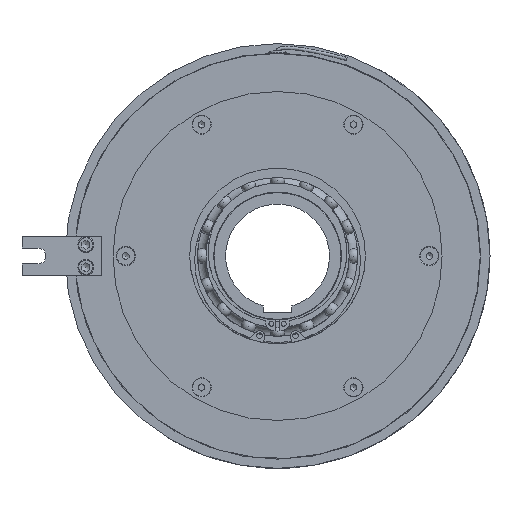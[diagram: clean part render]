
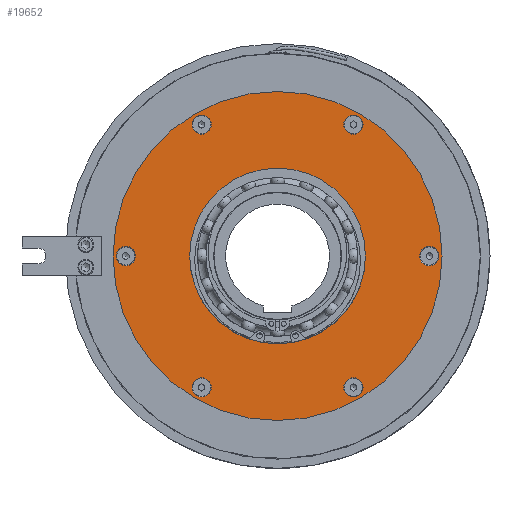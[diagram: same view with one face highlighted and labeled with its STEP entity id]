
A CAD part, left-side view. The second image highlights one B-rep face of the part: STEP entity #19652.
In plain terms, the highlighted planar face has unit normal (-1, 0, 0).
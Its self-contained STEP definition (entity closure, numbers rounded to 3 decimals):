
#541=FACE_BOUND('',#2397,.T.);
#542=FACE_BOUND('',#2398,.T.);
#543=FACE_BOUND('',#2399,.T.);
#544=FACE_BOUND('',#2400,.T.);
#545=FACE_BOUND('',#2401,.T.);
#546=FACE_BOUND('',#2402,.T.);
#547=FACE_BOUND('',#2403,.T.);
#869=PLANE('',#21043);
#1351=FACE_OUTER_BOUND('',#2396,.T.);
#2396=EDGE_LOOP('',(#13884,#13885));
#2397=EDGE_LOOP('',(#13886,#13887));
#2398=EDGE_LOOP('',(#13888,#13889));
#2399=EDGE_LOOP('',(#13890,#13891));
#2400=EDGE_LOOP('',(#13892,#13893));
#2401=EDGE_LOOP('',(#13894,#13895));
#2402=EDGE_LOOP('',(#13896,#13897));
#2403=EDGE_LOOP('',(#13898,#13899));
#4220=CIRCLE('',#21026,6.);
#4221=CIRCLE('',#21027,6.);
#4222=CIRCLE('',#21029,6.);
#4223=CIRCLE('',#21030,6.);
#4224=CIRCLE('',#21032,6.);
#4225=CIRCLE('',#21033,6.);
#4226=CIRCLE('',#21035,6.);
#4227=CIRCLE('',#21036,6.);
#4228=CIRCLE('',#21038,6.);
#4229=CIRCLE('',#21039,6.);
#4230=CIRCLE('',#21041,6.);
#4231=CIRCLE('',#21042,6.);
#4232=CIRCLE('',#21044,103.);
#4233=CIRCLE('',#21045,103.);
#4234=CIRCLE('',#21046,55.);
#4235=CIRCLE('',#21047,55.);
#7688=VERTEX_POINT('',#35452);
#7689=VERTEX_POINT('',#35453);
#7690=VERTEX_POINT('',#35458);
#7691=VERTEX_POINT('',#35459);
#7692=VERTEX_POINT('',#35464);
#7693=VERTEX_POINT('',#35465);
#7694=VERTEX_POINT('',#35470);
#7695=VERTEX_POINT('',#35471);
#7696=VERTEX_POINT('',#35476);
#7697=VERTEX_POINT('',#35477);
#7698=VERTEX_POINT('',#35482);
#7699=VERTEX_POINT('',#35483);
#7700=VERTEX_POINT('',#35488);
#7701=VERTEX_POINT('',#35489);
#7702=VERTEX_POINT('',#35492);
#7703=VERTEX_POINT('',#35493);
#10069=EDGE_CURVE('',#7688,#7689,#4220,.T.);
#10070=EDGE_CURVE('',#7689,#7688,#4221,.T.);
#10072=EDGE_CURVE('',#7690,#7691,#4222,.T.);
#10073=EDGE_CURVE('',#7691,#7690,#4223,.T.);
#10075=EDGE_CURVE('',#7692,#7693,#4224,.T.);
#10076=EDGE_CURVE('',#7693,#7692,#4225,.T.);
#10078=EDGE_CURVE('',#7694,#7695,#4226,.T.);
#10079=EDGE_CURVE('',#7695,#7694,#4227,.T.);
#10081=EDGE_CURVE('',#7696,#7697,#4228,.T.);
#10082=EDGE_CURVE('',#7697,#7696,#4229,.T.);
#10084=EDGE_CURVE('',#7698,#7699,#4230,.T.);
#10085=EDGE_CURVE('',#7699,#7698,#4231,.T.);
#10087=EDGE_CURVE('',#7700,#7701,#4232,.T.);
#10088=EDGE_CURVE('',#7701,#7700,#4233,.T.);
#10089=EDGE_CURVE('',#7702,#7703,#4234,.T.);
#10090=EDGE_CURVE('',#7703,#7702,#4235,.T.);
#13884=ORIENTED_EDGE('',*,*,#10087,.F.);
#13885=ORIENTED_EDGE('',*,*,#10088,.F.);
#13886=ORIENTED_EDGE('',*,*,#10069,.T.);
#13887=ORIENTED_EDGE('',*,*,#10070,.T.);
#13888=ORIENTED_EDGE('',*,*,#10072,.T.);
#13889=ORIENTED_EDGE('',*,*,#10073,.T.);
#13890=ORIENTED_EDGE('',*,*,#10075,.T.);
#13891=ORIENTED_EDGE('',*,*,#10076,.T.);
#13892=ORIENTED_EDGE('',*,*,#10078,.T.);
#13893=ORIENTED_EDGE('',*,*,#10079,.T.);
#13894=ORIENTED_EDGE('',*,*,#10081,.T.);
#13895=ORIENTED_EDGE('',*,*,#10082,.T.);
#13896=ORIENTED_EDGE('',*,*,#10084,.T.);
#13897=ORIENTED_EDGE('',*,*,#10085,.T.);
#13898=ORIENTED_EDGE('',*,*,#10089,.T.);
#13899=ORIENTED_EDGE('',*,*,#10090,.T.);
#19652=ADVANCED_FACE('',(#1351,#541,#542,#543,#544,#545,#546,#547),#869,
 .T.);
#21026=AXIS2_PLACEMENT_3D('',#35454,#24364,#24365);
#21027=AXIS2_PLACEMENT_3D('',#35455,#24366,#24367);
#21029=AXIS2_PLACEMENT_3D('',#35460,#24371,#24372);
#21030=AXIS2_PLACEMENT_3D('',#35461,#24373,#24374);
#21032=AXIS2_PLACEMENT_3D('',#35466,#24378,#24379);
#21033=AXIS2_PLACEMENT_3D('',#35467,#24380,#24381);
#21035=AXIS2_PLACEMENT_3D('',#35472,#24385,#24386);
#21036=AXIS2_PLACEMENT_3D('',#35473,#24387,#24388);
#21038=AXIS2_PLACEMENT_3D('',#35478,#24392,#24393);
#21039=AXIS2_PLACEMENT_3D('',#35479,#24394,#24395);
#21041=AXIS2_PLACEMENT_3D('',#35484,#24399,#24400);
#21042=AXIS2_PLACEMENT_3D('',#35485,#24401,#24402);
#21043=AXIS2_PLACEMENT_3D('',#35487,#24404,#24405);
#21044=AXIS2_PLACEMENT_3D('',#35490,#24406,#24407);
#21045=AXIS2_PLACEMENT_3D('',#35491,#24408,#24409);
#21046=AXIS2_PLACEMENT_3D('',#35494,#24410,#24411);
#21047=AXIS2_PLACEMENT_3D('',#35495,#24412,#24413);
#24364=DIRECTION('center_axis',(1.,0.,0.));
#24365=DIRECTION('ref_axis',(0.,0.,
1.));
#24366=DIRECTION('center_axis',(1.,0.,0.));
#24367=DIRECTION('ref_axis',(0.,0.,
1.));
#24371=DIRECTION('center_axis',(1.,0.,0.));
#24372=DIRECTION('ref_axis',(0.,0.,
1.));
#24373=DIRECTION('center_axis',(1.,0.,0.));
#24374=DIRECTION('ref_axis',(0.,0.,
1.));
#24378=DIRECTION('center_axis',(1.,0.,0.));
#24379=DIRECTION('ref_axis',(0.,0.,
1.));
#24380=DIRECTION('center_axis',(1.,0.,0.));
#24381=DIRECTION('ref_axis',(0.,0.,
1.));
#24385=DIRECTION('center_axis',(1.,0.,0.));
#24386=DIRECTION('ref_axis',(0.,0.,
1.));
#24387=DIRECTION('center_axis',(1.,0.,0.));
#24388=DIRECTION('ref_axis',(0.,0.,
1.));
#24392=DIRECTION('center_axis',(1.,0.,0.));
#24393=DIRECTION('ref_axis',(0.,0.,
1.));
#24394=DIRECTION('center_axis',(1.,0.,0.));
#24395=DIRECTION('ref_axis',(0.,0.,
1.));
#24399=DIRECTION('center_axis',(1.,0.,0.));
#24400=DIRECTION('ref_axis',(0.,0.,
1.));
#24401=DIRECTION('center_axis',(1.,0.,0.));
#24402=DIRECTION('ref_axis',(0.,0.,
1.));
#24404=DIRECTION('center_axis',(-1.,0.,0.));
#24405=DIRECTION('ref_axis',(0.,0.,
1.));
#24406=DIRECTION('center_axis',(1.,0.,0.));
#24407=DIRECTION('ref_axis',(0.,1.,0.));
#24408=DIRECTION('center_axis',(1.,0.,0.));
#24409=DIRECTION('ref_axis',(0.,1.,0.));
#24410=DIRECTION('center_axis',(1.,0.,0.));
#24411=DIRECTION('ref_axis',(0.,1.,0.));
#24412=DIRECTION('center_axis',(1.,0.,0.));
#24413=DIRECTION('ref_axis',(0.,1.,0.));
#35452=CARTESIAN_POINT('',(-74.,47.5,88.272));
#35453=CARTESIAN_POINT('',(-74.,47.5,76.272));
#35454=CARTESIAN_POINT('Origin',(-74.,47.5,82.272));
#35455=CARTESIAN_POINT('Origin',(-74.,47.5,82.272));
#35458=CARTESIAN_POINT('',(-74.,-47.5,88.272));
#35459=CARTESIAN_POINT('',(-74.,-47.5,76.272));
#35460=CARTESIAN_POINT('Origin',(-74.,-47.5,82.272));
#35461=CARTESIAN_POINT('Origin',(-74.,-47.5,82.272));
#35464=CARTESIAN_POINT('',(-74.,-95.,6.));
#35465=CARTESIAN_POINT('',(-74.,-95.,-6.));
#35466=CARTESIAN_POINT('Origin',(-74.,-95.,0.));
#35467=CARTESIAN_POINT('Origin',(-74.,-95.,0.));
#35470=CARTESIAN_POINT('',(-74.,-47.5,-76.272));
#35471=CARTESIAN_POINT('',(-74.,-47.5,-88.272));
#35472=CARTESIAN_POINT('Origin',(-74.,-47.5,-82.272));
#35473=CARTESIAN_POINT('Origin',(-74.,-47.5,-82.272));
#35476=CARTESIAN_POINT('',(-74.,47.5,-76.272));
#35477=CARTESIAN_POINT('',(-74.,47.5,-88.272));
#35478=CARTESIAN_POINT('Origin',(-74.,47.5,-82.272));
#35479=CARTESIAN_POINT('Origin',(-74.,47.5,-82.272));
#35482=CARTESIAN_POINT('',(-74.,95.,6.));
#35483=CARTESIAN_POINT('',(-74.,95.,-6.));
#35484=CARTESIAN_POINT('Origin',(-74.,95.,0.));
#35485=CARTESIAN_POINT('Origin',(-74.,95.,0.));
#35487=CARTESIAN_POINT('Origin',(-74.,79.,0.));
#35488=CARTESIAN_POINT('',(-74.,103.,0.));
#35489=CARTESIAN_POINT('',(-74.,-103.,0.));
#35490=CARTESIAN_POINT('Origin',(-74.,0.,0.));
#35491=CARTESIAN_POINT('Origin',(-74.,0.,0.));
#35492=CARTESIAN_POINT('',(-74.,55.,0.));
#35493=CARTESIAN_POINT('',(-74.,-55.,0.));
#35494=CARTESIAN_POINT('Origin',(-74.,0.,0.));
#35495=CARTESIAN_POINT('Origin',(-74.,0.,0.));
